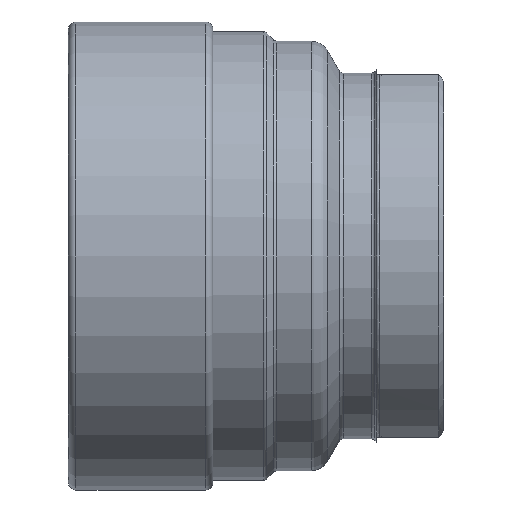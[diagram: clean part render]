
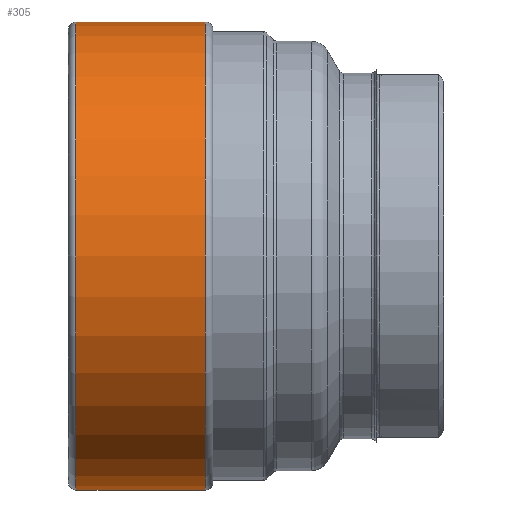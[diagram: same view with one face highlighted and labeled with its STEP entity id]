
A CAD part, front view. The second image highlights one B-rep face of the part: STEP entity #305.
In plain terms, the highlighted cylindrical face has radius 24.95 mm (diameter 49.9 mm), a full revolution.
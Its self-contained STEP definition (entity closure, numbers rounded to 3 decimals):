
#142=CYLINDRICAL_SURFACE('',#1110,24.95);
#305=ADVANCED_FACE('',(#401,#402),#142,.T.);
#401=FACE_BOUND('',#509,.T.);
#402=FACE_BOUND('',#510,.T.);
#509=EDGE_LOOP('',(#729));
#510=EDGE_LOOP('',(#730));
#729=ORIENTED_EDGE('',*,*,#932,.T.);
#730=ORIENTED_EDGE('',*,*,#933,.T.);
#822=VERTEX_POINT('',#1886);
#823=VERTEX_POINT('',#1888);
#932=EDGE_CURVE('',#822,#822,#990,.T.);
#933=EDGE_CURVE('',#823,#823,#991,.T.);
#990=CIRCLE('',#1108,24.95);
#991=CIRCLE('',#1109,24.95);
#1108=AXIS2_PLACEMENT_3D('',#1885,#1369,#1370);
#1109=AXIS2_PLACEMENT_3D('',#1887,#1371,#1372);
#1110=AXIS2_PLACEMENT_3D('',#1889,#1373,#1374);
#1369=DIRECTION('',(1.,0.,0.));
#1370=DIRECTION('',(0.,0.,-1.));
#1371=DIRECTION('',(-1.,0.,0.));
#1372=DIRECTION('',(0.,0.,1.));
#1373=DIRECTION('',(-1.,0.,0.));
#1374=DIRECTION('',(0.,0.,1.));
#1885=CARTESIAN_POINT('',(0.8,0.,0.));
#1886=CARTESIAN_POINT('',(0.8,0.,-24.95));
#1887=CARTESIAN_POINT('',(14.6,0.,0.));
#1888=CARTESIAN_POINT('',(14.6,0.,24.95));
#1889=CARTESIAN_POINT('',(0.,0.,0.));
